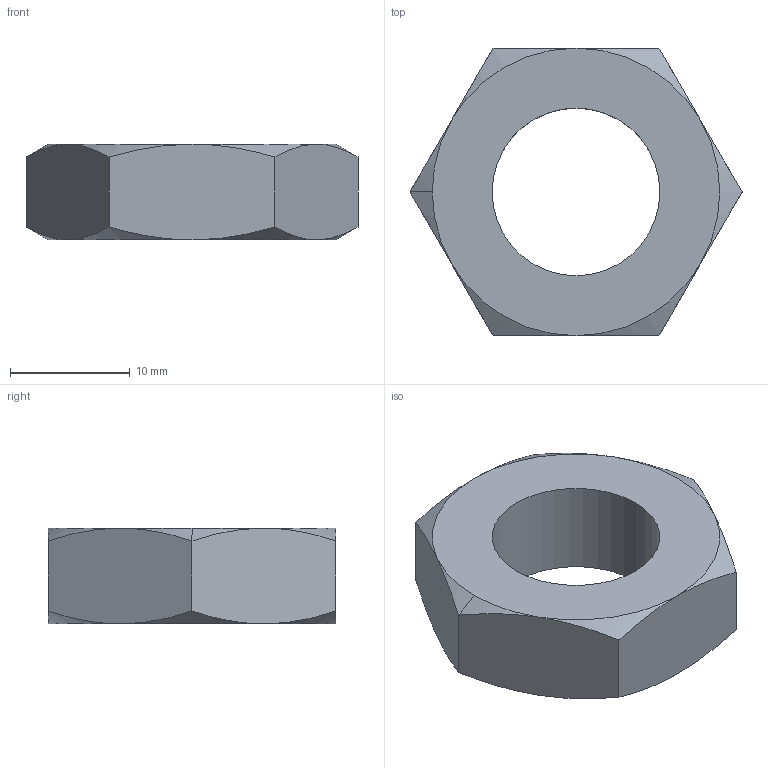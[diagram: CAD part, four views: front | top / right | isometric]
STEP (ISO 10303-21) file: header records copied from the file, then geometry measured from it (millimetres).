
FILE_DESCRIPTION (( 'STEP AP203' ), '1' );
FILE_NAME ('32700.W0518.step', '2016-02-10T17:14:07', ( 'User' ), ( '' ), 'SwSTEP 2.0', 'SolidWorks 2009', '' );
FILE_SCHEMA (( 'CONFIG_CONTROL_DESIGN' ));
Length unit declared in the file: millimetre
Products named in the file (1): 32700.W0518
Bounding box: 27.71 x 24 x 8 mm (x, y, z)
Volume: 2729.1 mm3; surface area: 1660 mm2
Topology: 1 solids, 1 shells, 24 faces, 52 edges, 30 vertices
Faces by surface type: cone 14, plane 8, cylinder 2
Entity records: 819 total; most frequent: CARTESIAN_POINT 251, ORIENTED_EDGE 104, DIRECTION 96, EDGE_CURVE 52, AXIS2_PLACEMENT_3D 43, VERTEX_POINT 30, EDGE_LOOP 26, ADVANCED_FACE 24
